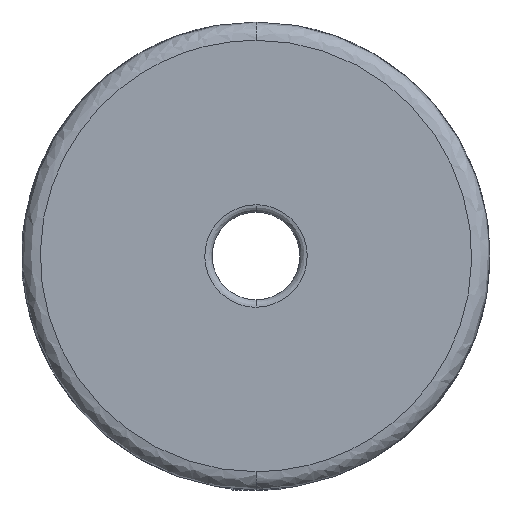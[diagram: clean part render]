
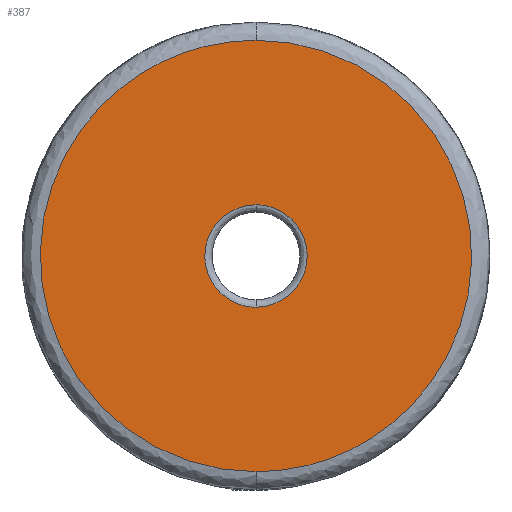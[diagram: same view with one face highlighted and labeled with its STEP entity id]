
A CAD part, left-side view. The second image highlights one B-rep face of the part: STEP entity #387.
In plain terms, the highlighted planar face has unit normal (-1, 0, 0).
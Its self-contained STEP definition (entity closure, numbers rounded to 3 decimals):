
#144 = VERTEX_POINT ( 'NONE', #1333 ) ;
#148 = VERTEX_POINT ( 'NONE', #1327 ) ;
#154 = EDGE_CURVE ( 'NONE', #162, #178, #1313, .T. ) ;
#162 = VERTEX_POINT ( 'NONE', #1474 ) ;
#178 = VERTEX_POINT ( 'NONE', #1388 ) ;
#387 = ADVANCED_FACE ( 'NONE', ( #2012, #2011 ), #2010, .F. ) ;
#388 = EDGE_LOOP ( 'NONE', ( #389, #741 ) ) ;
#389 = ORIENTED_EDGE ( 'NONE', *, *, #854, .F. ) ;
#569 = EDGE_CURVE ( 'NONE', #148, #144, #3138, .T. ) ;
#741 = ORIENTED_EDGE ( 'NONE', *, *, #569, .F. ) ;
#742 = EDGE_LOOP ( 'NONE', ( #743, #744 ) ) ;
#743 = ORIENTED_EDGE ( 'NONE', *, *, #154, .F. ) ;
#744 = ORIENTED_EDGE ( 'NONE', *, *, #852, .F. ) ;
#852 = EDGE_CURVE ( 'NONE', #178, #162, #5591, .T. ) ;
#854 = EDGE_CURVE ( 'NONE', #144, #148, #5601, .T. ) ;
#1313 =( BOUNDED_CURVE ( )  B_SPLINE_CURVE ( 3, ( #1485, #1484, #1483, #1482 ),
 .UNSPECIFIED., .F., .T. ) 
 B_SPLINE_CURVE_WITH_KNOTS ( ( 4, 4 ),
 ( 0., 0.5 ),
 .UNSPECIFIED. ) 
 CURVE ( )  GEOMETRIC_REPRESENTATION_ITEM ( )  RATIONAL_B_SPLINE_CURVE ( ( 1., 0.333, 0.333, 1. ) ) 
 REPRESENTATION_ITEM ( '' )  );
#1327 = CARTESIAN_POINT ( 'NONE',  ( -16., 0., 14.75 ) ) ;
#1333 = CARTESIAN_POINT ( 'NONE',  ( -16., 0., -14.75 ) ) ;
#1388 = CARTESIAN_POINT ( 'NONE',  ( -16., 0., 3.5 ) ) ;
#1474 = CARTESIAN_POINT ( 'NONE',  ( -16., 0., -3.5 ) ) ;
#1482 = CARTESIAN_POINT ( 'NONE',  ( -16., 0., 3.5 ) ) ;
#1483 = CARTESIAN_POINT ( 'NONE',  ( -16., -7., 3.5 ) ) ;
#1484 = CARTESIAN_POINT ( 'NONE',  ( -16., -7., -3.5 ) ) ;
#1485 = CARTESIAN_POINT ( 'NONE',  ( -16., 0., -3.5 ) ) ;
#2006 = DIRECTION ( 'NONE',  ( 0., 0., -1. ) ) ;
#2007 = DIRECTION ( 'NONE',  ( 1., 0., 0. ) ) ;
#2008 = CARTESIAN_POINT ( 'NONE',  ( -16., 0., 0. ) ) ;
#2009 = AXIS2_PLACEMENT_3D ( 'NONE', #2008, #2007, #2006 ) ;
#2010 = PLANE ( 'NONE',  #2009 ) ;
#2011 = FACE_BOUND ( 'NONE', #742, .T. ) ;
#2012 = FACE_OUTER_BOUND ( 'NONE', #388, .T. ) ;
#3138 =( BOUNDED_CURVE ( )  B_SPLINE_CURVE ( 3, ( #3150, #3149, #3148, #3147 ),
 .UNSPECIFIED., .F., .T. ) 
 B_SPLINE_CURVE_WITH_KNOTS ( ( 4, 4 ),
 ( 0.5, 1. ),
 .UNSPECIFIED. ) 
 CURVE ( )  GEOMETRIC_REPRESENTATION_ITEM ( )  RATIONAL_B_SPLINE_CURVE ( ( 1., 0.333, 0.333, 1. ) ) 
 REPRESENTATION_ITEM ( '' )  );
#3147 = CARTESIAN_POINT ( 'NONE',  ( -16., 0., -14.75 ) ) ;
#3148 = CARTESIAN_POINT ( 'NONE',  ( -16., -29.5, -14.75 ) ) ;
#3149 = CARTESIAN_POINT ( 'NONE',  ( -16., -29.5, 14.75 ) ) ;
#3150 = CARTESIAN_POINT ( 'NONE',  ( -16., 0., 14.75 ) ) ;
#5581 = CARTESIAN_POINT ( 'NONE',  ( -16., 0., 14.75 ) ) ;
#5582 = CARTESIAN_POINT ( 'NONE',  ( -16., 29.5, 14.75 ) ) ;
#5583 = CARTESIAN_POINT ( 'NONE',  ( -16., 29.5, -14.75 ) ) ;
#5584 = CARTESIAN_POINT ( 'NONE',  ( -16., 0., -14.75 ) ) ;
#5591 =( BOUNDED_CURVE ( )  B_SPLINE_CURVE ( 3, ( #5605, #5604, #5603, #5602 ),
 .UNSPECIFIED., .F., .T. ) 
 B_SPLINE_CURVE_WITH_KNOTS ( ( 4, 4 ),
 ( 0.5, 1. ),
 .UNSPECIFIED. ) 
 CURVE ( )  GEOMETRIC_REPRESENTATION_ITEM ( )  RATIONAL_B_SPLINE_CURVE ( ( 1., 0.333, 0.333, 1. ) ) 
 REPRESENTATION_ITEM ( '' )  );
#5601 =( BOUNDED_CURVE ( )  B_SPLINE_CURVE ( 3, ( #5584, #5583, #5582, #5581 ),
 .UNSPECIFIED., .F., .T. ) 
 B_SPLINE_CURVE_WITH_KNOTS ( ( 4, 4 ),
 ( 0., 0.5 ),
 .UNSPECIFIED. ) 
 CURVE ( )  GEOMETRIC_REPRESENTATION_ITEM ( )  RATIONAL_B_SPLINE_CURVE ( ( 1., 0.333, 0.333, 1. ) ) 
 REPRESENTATION_ITEM ( '' )  );
#5602 = CARTESIAN_POINT ( 'NONE',  ( -16., 0., -3.5 ) ) ;
#5603 = CARTESIAN_POINT ( 'NONE',  ( -16., 7., -3.5 ) ) ;
#5604 = CARTESIAN_POINT ( 'NONE',  ( -16., 7., 3.5 ) ) ;
#5605 = CARTESIAN_POINT ( 'NONE',  ( -16., 0., 3.5 ) ) ;
